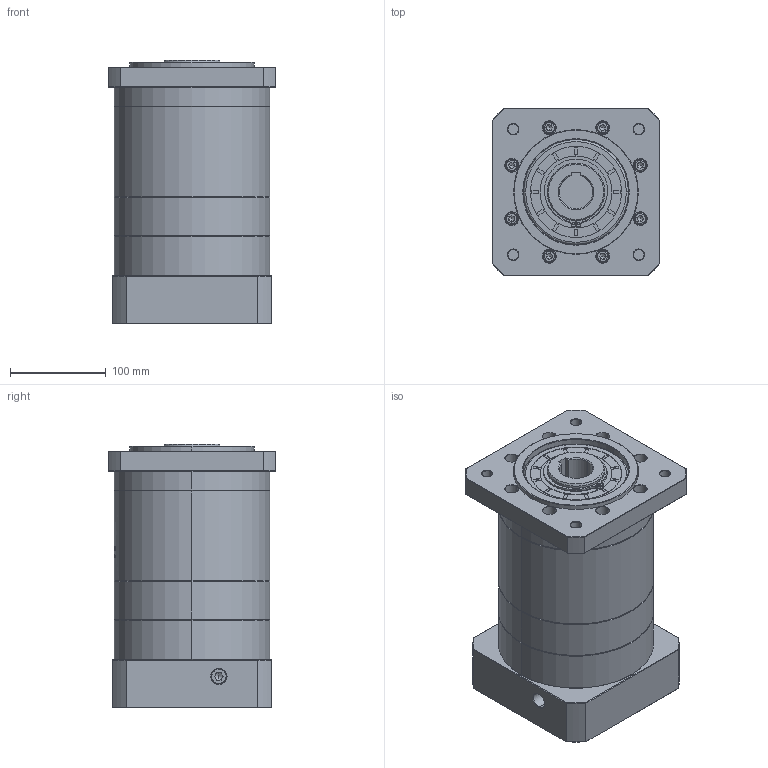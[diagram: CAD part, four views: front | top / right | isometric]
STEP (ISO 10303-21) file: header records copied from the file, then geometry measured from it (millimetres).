
FILE_DESCRIPTION (( 'STEP AP214' ), '1' );
FILE_NAME ('ZF160-K35-L3-32-150-185-M10.step', '2023-03-21T04:33:39', ( '' ), ( '' ), 'SwSTEP 2.0', 'SolidWorks 2016', '' );
FILE_SCHEMA (( 'AUTOMOTIVE_DESIGN' ));
Length unit declared in the file: millimetre
Products named in the file (1): ZF160-K35-L3-32-150-185-M10
Bounding box: 175 x 175 x 274.2 mm (x, y, z)
Volume: 5532720.7 mm3; surface area: 363636.1 mm2
Topology: 6 solids, 6 shells, 1581 faces, 4111 edges, 2633 vertices
Faces by surface type: plane 637, cylinder 391, cone 322, bspline 211, torus 20
Entity records: 86595 total; most frequent: CARTESIAN_POINT 32512, ORIENTED_EDGE 8166, DIRECTION 6963, EDGE_CURVE 4083, VERTEX_POINT 2633, AXIS2_PLACEMENT_3D 2412, LINE 2139, VECTOR 2139
